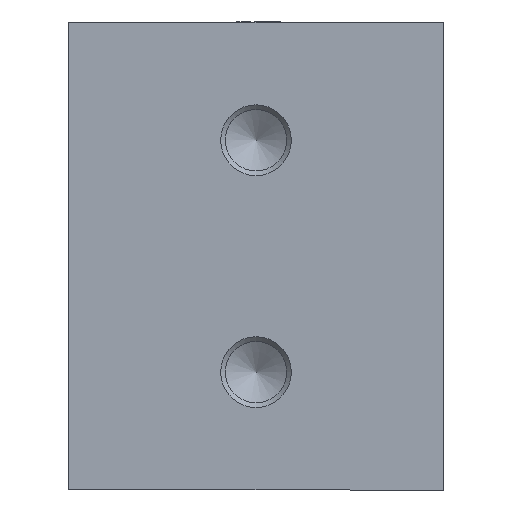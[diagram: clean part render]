
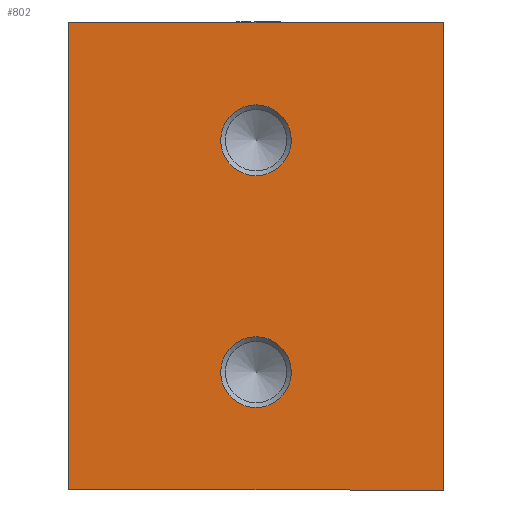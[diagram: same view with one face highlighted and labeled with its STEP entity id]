
A CAD part, front view. The second image highlights one B-rep face of the part: STEP entity #802.
In plain terms, the highlighted planar face has unit normal (0, -1, 0).
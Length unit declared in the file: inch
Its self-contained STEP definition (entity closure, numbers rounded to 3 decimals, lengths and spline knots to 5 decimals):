
#51=FACE_BOUND('',#129,.T.);
#52=FACE_BOUND('',#130,.T.);
#65=PLANE('',#907);
#85=FACE_OUTER_BOUND('',#128,.T.);
#128=EDGE_LOOP('',(#558,#559,#560,#561));
#129=EDGE_LOOP('',(#562));
#130=EDGE_LOOP('',(#563));
#185=LINE('',#1267,#244);
#186=LINE('',#1269,#245);
#187=LINE('',#1271,#246);
#188=LINE('',#1272,#247);
#244=VECTOR('',#1014,0.3937);
#245=VECTOR('',#1015,0.3937);
#246=VECTOR('',#1016,0.3937);
#247=VECTOR('',#1017,0.3937);
#302=CIRCLE('',#904,0.0945);
#305=CIRCLE('',#908,0.0945);
#352=VERTEX_POINT('',#1257);
#355=VERTEX_POINT('',#1265);
#356=VERTEX_POINT('',#1266);
#357=VERTEX_POINT('',#1268);
#358=VERTEX_POINT('',#1270);
#359=VERTEX_POINT('',#1273);
#434=EDGE_CURVE('',#352,#352,#302,.T.);
#438=EDGE_CURVE('',#355,#356,#185,.T.);
#439=EDGE_CURVE('',#357,#356,#186,.T.);
#440=EDGE_CURVE('',#358,#357,#187,.T.);
#441=EDGE_CURVE('',#355,#358,#188,.T.);
#442=EDGE_CURVE('',#359,#359,#305,.T.);
#558=ORIENTED_EDGE('',*,*,#438,.T.);
#559=ORIENTED_EDGE('',*,*,#439,.F.);
#560=ORIENTED_EDGE('',*,*,#440,.F.);
#561=ORIENTED_EDGE('',*,*,#441,.F.);
#562=ORIENTED_EDGE('',*,*,#442,.F.);
#563=ORIENTED_EDGE('',*,*,#434,.F.);
#802=ADVANCED_FACE('',(#85,#51,#52),#65,.T.);
#904=AXIS2_PLACEMENT_3D('',#1258,#1005,#1006);
#907=AXIS2_PLACEMENT_3D('',#1264,#1012,#1013);
#908=AXIS2_PLACEMENT_3D('',#1274,#1018,#1019);
#1005=DIRECTION('center_axis',(0.,-1.,0.));
#1006=DIRECTION('ref_axis',(-1.,0.,0.));
#1012=DIRECTION('center_axis',(0.,-1.,0.));
#1013=DIRECTION('ref_axis',(1.,0.,0.));
#1014=DIRECTION('',(0.,0.,1.));
#1015=DIRECTION('',(1.,0.,0.));
#1016=DIRECTION('',(0.,0.,1.));
#1017=DIRECTION('',(-1.,0.,0.));
#1018=DIRECTION('center_axis',(0.,-1.,0.));
#1019=DIRECTION('ref_axis',(-1.,0.,0.));
#1257=CARTESIAN_POINT('',(0.0945,-0.89,-0.31));
#1258=CARTESIAN_POINT('Origin',(0.,-0.89,-0.31));
#1264=CARTESIAN_POINT('Origin',(-0.5,-0.89,0.));
#1265=CARTESIAN_POINT('',(0.5,-0.89,-0.625));
#1266=CARTESIAN_POINT('',(0.5,-0.89,0.625));
#1267=CARTESIAN_POINT('',(0.5,-0.89,0.));
#1268=CARTESIAN_POINT('',(-0.5,-0.89,0.625));
#1269=CARTESIAN_POINT('',(-0.5,-0.89,0.625));
#1270=CARTESIAN_POINT('',(-0.5,-0.89,-0.625));
#1271=CARTESIAN_POINT('',(-0.5,-0.89,0.));
#1272=CARTESIAN_POINT('',(-0.5,-0.89,-0.625));
#1273=CARTESIAN_POINT('',(0.0945,-0.89,0.31));
#1274=CARTESIAN_POINT('Origin',(0.,-0.89,0.31));
